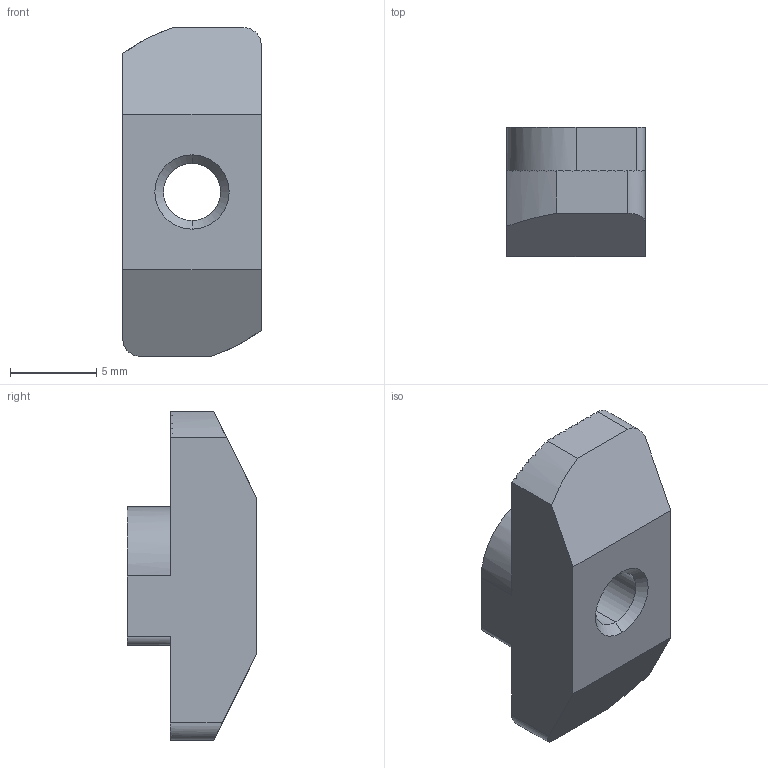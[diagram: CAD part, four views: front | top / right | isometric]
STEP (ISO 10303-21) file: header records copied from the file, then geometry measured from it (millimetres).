
FILE_DESCRIPTION (( 'STEP AP203' ), '1' );
FILE_NAME ('LIMA-RN4-84040.STEP', '2018-03-15T12:23:34', ( '' ), ( '' ), 'SwSTEP 2.0', 'SolidWorks 2013', '' );
FILE_SCHEMA (( 'CONFIG_CONTROL_DESIGN' ));
Length unit declared in the file: millimetre
Products named in the file (1): LIMA-RN4-84040
Bounding box: 8 x 7.5 x 19 mm (x, y, z)
Volume: 717.6 mm3; surface area: 641.6 mm2
Topology: 1 solids, 1 shells, 122 faces, 356 edges, 236 vertices
Faces by surface type: plane 108, cylinder 10, cone 4
Entity records: 4082 total; most frequent: CARTESIAN_POINT 931, ORIENTED_EDGE 712, DIRECTION 583, EDGE_CURVE 356, VERTEX_POINT 236, VECTOR 231, LINE 231, AXIS2_PLACEMENT_3D 176
